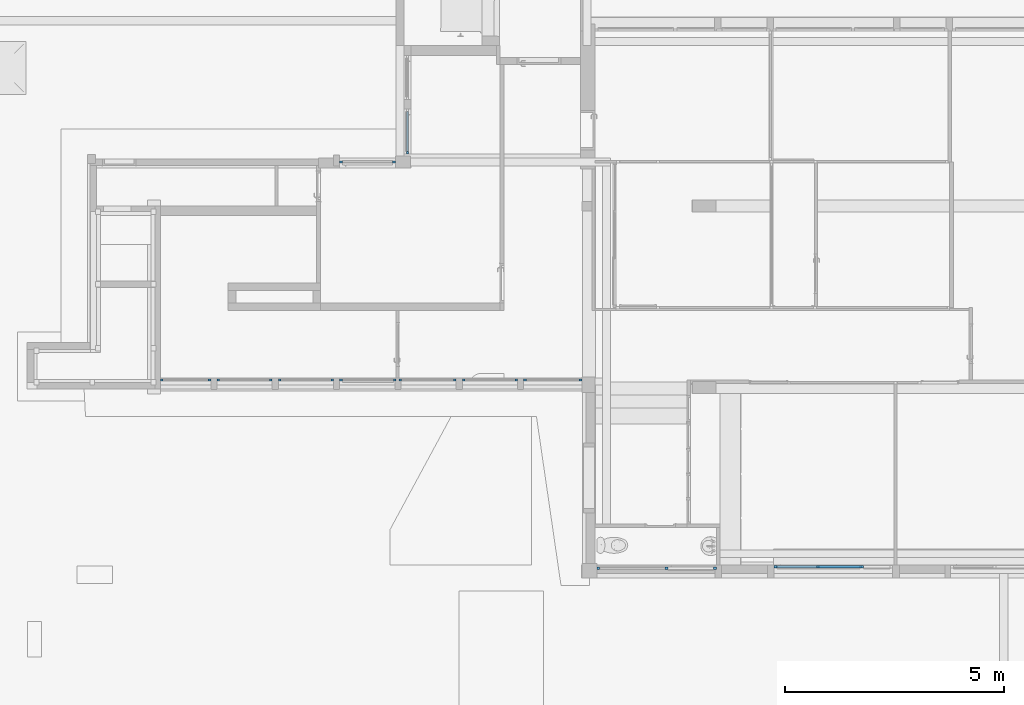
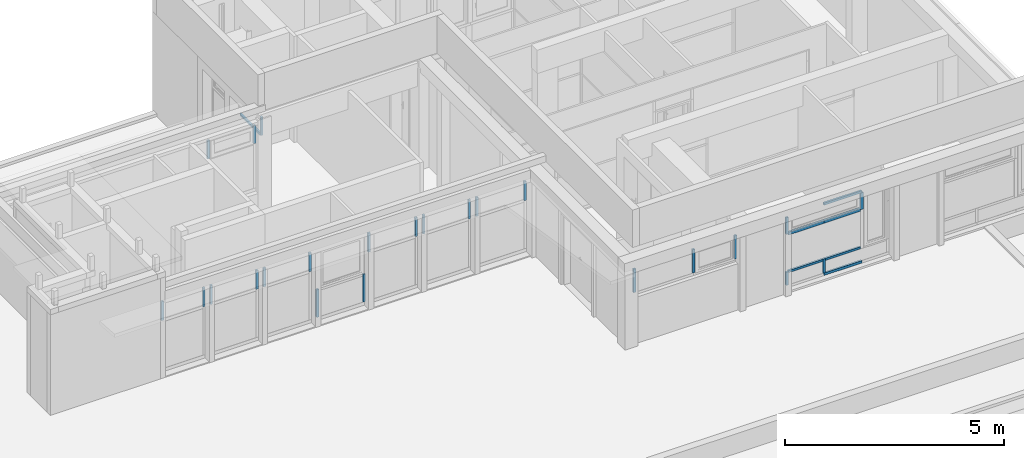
# One storey, part 14 of 49: 31 members, 11 elements without a shape of their own.
"""IFC4 building model written with IfcOpenShell, lengths in metres."""

from ifc_helpers import new_model, entity, si_unit, converted_unit, derived_unit, direction, frame, origin, place, context, subcontext, project, spatial, indexed_curve, outline, extrude, source, transform, mapped, material, type_object, type_shapes, element, aggregate, save


model = new_model("IFC4")

# Units and contexts
model_context = context("Model", 3, precision=1e-05, world=origin(), true_north=direction((6.12303176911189e-17, 1.0)))
body_context = subcontext(model_context, "Body", "Model", "MODEL_VIEW")
ifc_project = project(units=[si_unit("LENGTHUNIT", "METRE"), si_unit("AREAUNIT", "SQUARE_METRE"), si_unit("VOLUMEUNIT", "CUBIC_METRE"), converted_unit("PLANEANGLEUNIT", "DEGREE", entity("IfcRatioMeasure", 0.0174532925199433), si_unit("PLANEANGLEUNIT", "RADIAN"), dimensions=[0, 0, 0, 0, 0, 0, 0]), si_unit("MASSUNIT", "GRAM", prefix="KILO"), derived_unit("MASSDENSITYUNIT", [(si_unit("MASSUNIT", "GRAM", prefix="KILO"), 1), (si_unit("LENGTHUNIT", "METRE"), -3)]), derived_unit("MOMENTOFINERTIAUNIT", [(si_unit("LENGTHUNIT", "METRE"), 4)]), si_unit("TIMEUNIT", "SECOND"), si_unit("FREQUENCYUNIT", "HERTZ"), si_unit("THERMODYNAMICTEMPERATUREUNIT", "DEGREE_CELSIUS"), derived_unit("THERMALTRANSMITTANCEUNIT", [(si_unit("MASSUNIT", "GRAM", prefix="KILO"), 1), (si_unit("THERMODYNAMICTEMPERATUREUNIT", "KELVIN"), -1), (si_unit("TIMEUNIT", "SECOND"), -3)]), derived_unit("VOLUMETRICFLOWRATEUNIT", [(si_unit("LENGTHUNIT", "METRE"), 3), (si_unit("TIMEUNIT", "SECOND"), -1)]), si_unit("ELECTRICCURRENTUNIT", "AMPERE"), si_unit("ELECTRICVOLTAGEUNIT", "VOLT"), si_unit("POWERUNIT", "WATT"), si_unit("FORCEUNIT", "NEWTON", prefix="KILO"), si_unit("ILLUMINANCEUNIT", "LUX"), si_unit("LUMINOUSFLUXUNIT", "LUMEN"), si_unit("LUMINOUSINTENSITYUNIT", "CANDELA"), derived_unit("USERDEFINED", [(si_unit("MASSUNIT", "GRAM", prefix="KILO"), -1), (si_unit("LENGTHUNIT", "METRE"), -2), (si_unit("TIMEUNIT", "SECOND"), 3), (si_unit("LUMINOUSFLUXUNIT", "LUMEN"), 1)]), derived_unit("LINEARVELOCITYUNIT", [(si_unit("LENGTHUNIT", "METRE"), 1), (si_unit("TIMEUNIT", "SECOND"), -1)]), si_unit("PRESSUREUNIT", "PASCAL"), derived_unit("USERDEFINED", [(si_unit("LENGTHUNIT", "METRE"), -2), (si_unit("MASSUNIT", "GRAM", prefix="KILO"), 1), (si_unit("TIMEUNIT", "SECOND"), -2)]), derived_unit("LINEARFORCEUNIT", [(si_unit("MASSUNIT", "GRAM", prefix="KILO"), 1), (si_unit("LENGTHUNIT", "METRE"), 1), (si_unit("TIMEUNIT", "SECOND"), -2), (si_unit("LENGTHUNIT", "METRE"), -1)]), derived_unit("PLANARFORCEUNIT", [(si_unit("MASSUNIT", "GRAM", prefix="KILO"), 1), (si_unit("LENGTHUNIT", "METRE"), 1), (si_unit("TIMEUNIT", "SECOND"), -2), (si_unit("LENGTHUNIT", "METRE"), -2)])], contexts=[model_context])

# Site, building, storey
site_placement = place(None, origin())
site = spatial("IfcSite", under=ifc_project, at=site_placement, Name="Default", CompositionType="ELEMENT")
building_placement = place(site_placement, origin())
building = spatial("IfcBuilding", under=site, at=building_placement, Name="HOTEL CONSULAIRE BOULOGNE SUR MER", CompositionType="ELEMENT")
storey_placement = place(building_placement, frame((0.0, 0.0, 6.81974152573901)))
storey = spatial("IfcBuildingStorey", under=building, at=storey_placement, Name="Niveau 2", CompositionType="ELEMENT", Elevation=6.81974152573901)

# Curtain wall, member
curtain_wall_type = type_object("IfcCurtainWallType", Name="Mur-rideau:Simple panneau", PredefinedType="NOTDEFINED")
curtain_wall_1_placement = place(storey_placement, frame((0.0, 0.0, -6.81974152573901)))
curtain_wall_1 = element("IfcCurtainWall", 1, at=curtain_wall_1_placement, inside=storey, type_object=curtain_wall_type, Name="Mur-rideau:Simple panneau", ObjectType="Mur-rideau:Simple panneau", PredefinedType="NOTDEFINED")
ifc_material = material(Name="PVC - Blanc", Category="Plastique")
member_type_1 = type_object("IfcMemberType", Name="Meneau rectangulaire:50 x 30", PredefinedType="MULLION", material=ifc_material)
shared_shape_1 = source(origin(), body_context, "Body", "SweptSolid", [
    extrude(outline(indexed_curve([(-0.025, -0.03), (0.025, -0.03), (0.025, 0.03), (-0.025, 0.03), (-0.025, -0.03)], self_intersect=False)), frame((-0.03, -0.025, -0.526893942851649), z_axis=(0.0, 0.0, 1.0), x_axis=(0.0, -1.0, 0.0)), (0.0, 0.0, 1.0), 0.526893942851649),
])
type_shapes(member_type_1, [shared_shape_1])
member_1_placement = place(storey_placement, frame((1.75747131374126, -19.6319143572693, 2.62889394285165), z_axis=(0.0, 0.0, 1.0), x_axis=(-1.0, 0.0, 0.0)))
member_1 = element("IfcMember", 2, at=member_1_placement, type_object=member_type_1, material=ifc_material, Name="Meneau rectangulaire:50 x 30", ObjectType="Meneau rectangulaire:50 x 30", PredefinedType="MULLION", context=body_context, shape_type="MappedRepresentation", body=[
    mapped(shared_shape_1, transform((0.0, 0.0, 0.0), scale=1.0)),
])

curtain_wall_2_placement = place(storey_placement, frame((0.0, 0.0, -6.81974152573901)))
curtain_wall_2 = element("IfcCurtainWall", 3, at=curtain_wall_2_placement, inside=storey, type_object=curtain_wall_type, Name="Mur-rideau:Simple panneau", ObjectType="Mur-rideau:Simple panneau", PredefinedType="NOTDEFINED")
member_2_placement = place(storey_placement, frame((3.04421154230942, -19.6319143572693, 2.62889394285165), z_axis=(0.0, 0.0, 1.0), x_axis=(-1.0, 0.0, 0.0)))
member_2 = element("IfcMember", 4, at=member_2_placement, type_object=member_type_1, material=ifc_material, Name="Meneau rectangulaire:50 x 30", ObjectType="Meneau rectangulaire:50 x 30", PredefinedType="MULLION", context=body_context, shape_type="MappedRepresentation", body=[
    mapped(shared_shape_1, transform((0.0, 0.0, 0.0), scale=1.0)),
])

curtain_wall_3_placement = place(storey_placement, frame((0.0, 0.0, -6.81974152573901)))
curtain_wall_3 = element("IfcCurtainWall", 5, at=curtain_wall_3_placement, inside=storey, type_object=curtain_wall_type, Name="Mur-rideau:Simple panneau", ObjectType="Mur-rideau:Simple panneau", PredefinedType="NOTDEFINED")
member_3_placement = place(storey_placement, frame((7.2011767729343, -19.6319143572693, 2.62889394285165), z_axis=(0.0, 0.0, 1.0), x_axis=(-1.0, 0.0, 0.0)))
member_3 = element("IfcMember", 6, at=member_3_placement, type_object=member_type_1, material=ifc_material, Name="Meneau rectangulaire:50 x 30", ObjectType="Meneau rectangulaire:50 x 30", PredefinedType="MULLION", context=body_context, shape_type="MappedRepresentation", body=[
    mapped(shared_shape_1, transform((0.0, 0.0, 0.0), scale=1.0)),
])

curtain_wall_4_placement = place(storey_placement, frame((0.0, 0.0, -6.81974152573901)))
curtain_wall_4 = element("IfcCurtainWall", 7, at=curtain_wall_4_placement, inside=storey, type_object=curtain_wall_type, Name="Mur-rideau:Simple panneau", ObjectType="Mur-rideau:Simple panneau", PredefinedType="NOTDEFINED")
member_4_placement = place(storey_placement, frame((8.64421154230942, -19.6319143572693, 2.62889394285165), z_axis=(0.0, 0.0, 1.0), x_axis=(-1.0, 0.0, 0.0)))
member_4 = element("IfcMember", 8, at=member_4_placement, type_object=member_type_1, material=ifc_material, Name="Meneau rectangulaire:50 x 30", ObjectType="Meneau rectangulaire:50 x 30", PredefinedType="MULLION", context=body_context, shape_type="MappedRepresentation", body=[
    mapped(shared_shape_1, transform((0.0, 0.0, 0.0), scale=1.0)),
])

curtain_wall_5_placement = place(storey_placement, frame((0.0, 0.0, -6.81974152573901)))
curtain_wall_5 = element("IfcCurtainWall", 9, at=curtain_wall_5_placement, inside=storey, type_object=curtain_wall_type, Name="Mur-rideau:Simple panneau", ObjectType="Mur-rideau:Simple panneau", PredefinedType="NOTDEFINED")
member_5_placement = place(storey_placement, frame((10.0442115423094, -19.6319143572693, 2.62889394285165), z_axis=(0.0, 0.0, 1.0), x_axis=(-1.0, 0.0, 0.0)))
member_5 = element("IfcMember", 10, at=member_5_placement, type_object=member_type_1, material=ifc_material, Name="Meneau rectangulaire:50 x 30", ObjectType="Meneau rectangulaire:50 x 30", PredefinedType="MULLION", context=body_context, shape_type="MappedRepresentation", body=[
    mapped(shared_shape_1, transform((0.0, 0.0, 0.0), scale=1.0)),
])

# Member
member_type_2 = type_object("IfcMemberType", Name="Meneau rectangulaire:50 x 30", PredefinedType="MULLION", material=ifc_material)
shared_shape_2 = source(origin(), body_context, "Body", "SweptSolid", [
    extrude(outline(indexed_curve([(-0.025, -0.03), (0.025, -0.03), (0.025, 0.03), (-0.025, 0.03), (-0.025, -0.03)], self_intersect=False)), frame((-0.03, -0.025, -0.52689394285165), z_axis=(0.0, 0.0, 1.0), x_axis=(0.0, -1.0, 0.0)), (0.0, 0.0, 1.0), 0.52689394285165),
])
type_shapes(member_type_2, [shared_shape_2])
member_6_placement = place(storey_placement, frame((2.90421154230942, -19.6319143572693, 2.102), z_axis=(0.0, 0.0, -1.0), x_axis=(1.0, 0.0, 0.0)))
member_6 = element("IfcMember", 11, at=member_6_placement, type_object=member_type_2, material=ifc_material, Name="Meneau rectangulaire:50 x 30", ObjectType="Meneau rectangulaire:50 x 30", PredefinedType="MULLION", context=body_context, shape_type="MappedRepresentation", body=[
    mapped(shared_shape_2, transform((0.0, 0.0, 0.0), scale=1.0)),
])

aggregate(curtain_wall_1, [member_1, member_6])

member_7_placement = place(storey_placement, frame((4.30421154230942, -19.6319143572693, 2.102), z_axis=(0.0, 0.0, -1.0), x_axis=(1.0, 0.0, 0.0)))
member_7 = element("IfcMember", 12, at=member_7_placement, type_object=member_type_2, material=ifc_material, Name="Meneau rectangulaire:50 x 30", ObjectType="Meneau rectangulaire:50 x 30", PredefinedType="MULLION", context=body_context, shape_type="MappedRepresentation", body=[
    mapped(shared_shape_2, transform((0.0, 0.0, 0.0), scale=1.0)),
])

aggregate(curtain_wall_2, [member_2, member_7])

member_8_placement = place(storey_placement, frame((8.50421154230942, -19.6319143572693, 2.102), z_axis=(0.0, 0.0, -1.0), x_axis=(1.0, 0.0, 0.0)))
member_8 = element("IfcMember", 13, at=member_8_placement, type_object=member_type_2, material=ifc_material, Name="Meneau rectangulaire:50 x 30", ObjectType="Meneau rectangulaire:50 x 30", PredefinedType="MULLION", context=body_context, shape_type="MappedRepresentation", body=[
    mapped(shared_shape_2, transform((0.0, 0.0, 0.0), scale=1.0)),
])

aggregate(curtain_wall_3, [member_3, member_8])

member_9_placement = place(storey_placement, frame((9.90421154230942, -19.6319143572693, 2.102), z_axis=(0.0, 0.0, -1.0), x_axis=(1.0, 0.0, 0.0)))
member_9 = element("IfcMember", 14, at=member_9_placement, type_object=member_type_2, material=ifc_material, Name="Meneau rectangulaire:50 x 30", ObjectType="Meneau rectangulaire:50 x 30", PredefinedType="MULLION", context=body_context, shape_type="MappedRepresentation", body=[
    mapped(shared_shape_2, transform((0.0, 0.0, 0.0), scale=1.0)),
])

aggregate(curtain_wall_4, [member_4, member_9])

member_10_placement = place(storey_placement, frame((11.3719435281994, -19.6319143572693, 2.102), z_axis=(0.0, 0.0, -1.0), x_axis=(1.0, 0.0, 0.0)))
member_10 = element("IfcMember", 15, at=member_10_placement, type_object=member_type_2, material=ifc_material, Name="Meneau rectangulaire:50 x 30", ObjectType="Meneau rectangulaire:50 x 30", PredefinedType="MULLION", context=body_context, shape_type="MappedRepresentation", body=[
    mapped(shared_shape_2, transform((0.0, 0.0, 0.0), scale=1.0)),
])

aggregate(curtain_wall_5, [member_5, member_10])

# Curtain wall, members
curtain_wall_6_placement = place(storey_placement, frame((0.0, 0.0, -6.81974152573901)))
curtain_wall_6 = element("IfcCurtainWall", 16, at=curtain_wall_6_placement, inside=storey, type_object=curtain_wall_type, Name="Mur-rideau:Simple panneau", ObjectType="Mur-rideau:Simple panneau", PredefinedType="NOTDEFINED")
member_type_3 = type_object("IfcMemberType", Name="Meneau rectangulaire:50 x 30", PredefinedType="MULLION", material=ifc_material)
shared_shape_3 = source(origin(), body_context, "Body", "SweptSolid", [
    extrude(outline(indexed_curve([(-0.025, -0.03), (0.025, -0.03), (0.025, 0.03), (-0.025, 0.03), (-0.025, -0.03)], self_intersect=False)), frame((-0.03, -0.025, -0.519999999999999), z_axis=(0.0, 0.0, 1.0), x_axis=(0.0, -1.0, 0.0)), (0.0, 0.0, 1.0), 0.519999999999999),
])
type_shapes(member_type_3, [shared_shape_3])
member_11_placement = place(storey_placement, frame((4.44421154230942, -19.6319143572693, 2.622), z_axis=(0.0, 0.0, 1.0), x_axis=(-1.0, 0.0, 0.0)))
member_11 = element("IfcMember", 17, at=member_11_placement, type_object=member_type_3, material=ifc_material, Name="Meneau rectangulaire:50 x 30", ObjectType="Meneau rectangulaire:50 x 30", PredefinedType="MULLION", context=body_context, shape_type="MappedRepresentation", body=[
    mapped(shared_shape_3, transform((0.0, 0.0, 0.0), scale=1.0)),
])
member_type_4 = type_object("IfcMemberType", Name="Meneau rectangulaire:50 x 30", PredefinedType="MULLION", material=ifc_material)
shared_shape_4 = source(origin(), body_context, "Body", "SweptSolid", [
    extrude(outline(indexed_curve([(-0.025, -0.03), (0.025, -0.03), (0.025, 0.03), (-0.025, 0.03), (-0.025, -0.03)], self_intersect=False)), frame((-0.03, -0.025, -0.519999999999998), z_axis=(0.0, 0.0, 1.0), x_axis=(0.0, -1.0, 0.0)), (0.0, 0.0, 1.0), 0.519999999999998),
])
type_shapes(member_type_4, [shared_shape_4])
member_12_placement = place(storey_placement, frame((5.70421154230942, -19.6319143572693, 2.102), z_axis=(0.0, 0.0, -1.0), x_axis=(1.0, 0.0, 0.0)))
member_12 = element("IfcMember", 18, at=member_12_placement, type_object=member_type_4, material=ifc_material, Name="Meneau rectangulaire:50 x 30", ObjectType="Meneau rectangulaire:50 x 30", PredefinedType="MULLION", context=body_context, shape_type="MappedRepresentation", body=[
    mapped(shared_shape_4, transform((0.0, 0.0, 0.0), scale=1.0)),
])
aggregate(curtain_wall_6, [member_11, member_12])

curtain_wall_7_placement = place(storey_placement, frame((0.0, 0.0, -6.81974152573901)))
curtain_wall_7 = element("IfcCurtainWall", 19, at=curtain_wall_7_placement, inside=storey, type_object=curtain_wall_type, Name="Mur-rideau:Simple panneau", ObjectType="Mur-rideau:Simple panneau", PredefinedType="NOTDEFINED")
member_type_5 = type_object("IfcMemberType", Name="Meneau rectangulaire:50 x 30", PredefinedType="MULLION", material=ifc_material)
shared_shape_5 = source(origin(), body_context, "Body", "SweptSolid", [
    extrude(outline(indexed_curve([(-0.025, -0.03), (0.025, -0.03), (0.025, 0.03), (-0.025, 0.03), (-0.025, -0.03)], self_intersect=False)), frame((-0.03, -0.025, -0.771), z_axis=(0.0, 0.0, 1.0), x_axis=(0.0, -1.0, 0.0)), (0.0, 0.0, 1.0), 0.771),
])
type_shapes(member_type_5, [shared_shape_5])
member_13_placement = place(storey_placement, frame((5.84421154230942, -19.6319143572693, 1.531), z_axis=(0.0, 0.0, 1.0), x_axis=(-1.0, 0.0, 0.0)))
member_13 = element("IfcMember", 20, at=member_13_placement, type_object=member_type_5, material=ifc_material, Name="Meneau rectangulaire:50 x 30", ObjectType="Meneau rectangulaire:50 x 30", PredefinedType="MULLION", context=body_context, shape_type="MappedRepresentation", body=[
    mapped(shared_shape_5, transform((0.0, 0.0, 0.0), scale=1.0)),
])
member_type_6 = type_object("IfcMemberType", Name="Meneau rectangulaire:50 x 30", PredefinedType="MULLION", material=ifc_material)
shared_shape_6 = source(origin(), body_context, "Body", "SweptSolid", [
    extrude(outline(indexed_curve([(-0.025, -0.03), (0.025, -0.03), (0.025, 0.03), (-0.025, 0.03), (-0.025, -0.03)], self_intersect=False)), frame((-0.03, -0.025, -0.771), z_axis=(0.0, 0.0, 1.0), x_axis=(0.0, -1.0, 0.0)), (0.0, 0.0, 1.0), 0.771),
])
type_shapes(member_type_6, [shared_shape_6])
member_14_placement = place(storey_placement, frame((7.1311767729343, -19.6319143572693, 0.76), z_axis=(0.0, 0.0, -1.0), x_axis=(1.0, 0.0, 0.0)))
member_14 = element("IfcMember", 21, at=member_14_placement, type_object=member_type_6, material=ifc_material, Name="Meneau rectangulaire:50 x 30", ObjectType="Meneau rectangulaire:50 x 30", PredefinedType="MULLION", context=body_context, shape_type="MappedRepresentation", body=[
    mapped(shared_shape_6, transform((0.0, 0.0, 0.0), scale=1.0)),
])
aggregate(curtain_wall_7, [member_13, member_14])

curtain_wall_8_placement = place(storey_placement, frame((0.0, 0.0, -6.81974152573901)))
curtain_wall_8 = element("IfcCurtainWall", 22, at=curtain_wall_8_placement, inside=storey, type_object=curtain_wall_type, Name="Mur-rideau:Simple panneau", ObjectType="Mur-rideau:Simple panneau", PredefinedType="NOTDEFINED")
member_type_7 = type_object("IfcMemberType", Name="Meneau rectangulaire:50 x 30", PredefinedType="MULLION", material=ifc_material)
shared_shape_7 = source(origin(), body_context, "Body", "SweptSolid", [
    extrude(outline(indexed_curve([(-0.025, -0.03), (0.025, -0.03), (0.025, 0.03), (-0.025, 0.03), (-0.025, -0.03)], self_intersect=False)), frame((-0.03, -0.025, -0.366), z_axis=(0.0, 0.0, 1.0), x_axis=(0.0, -1.0, 0.0)), (0.0, 0.0, 1.0), 0.366),
])
type_shapes(member_type_7, [shared_shape_7])
member_15_placement = place(storey_placement, frame((15.7620413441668, -23.8933633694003, 1.12999999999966), z_axis=(0.0, 0.0, 1.0), x_axis=(-1.0, 0.0, 0.0)))
member_15 = element("IfcMember", 23, at=member_15_placement, type_object=member_type_7, material=ifc_material, Name="Meneau rectangulaire:50 x 30", ObjectType="Meneau rectangulaire:50 x 30", PredefinedType="MULLION", context=body_context, shape_type="MappedRepresentation", body=[
    mapped(shared_shape_7, transform((0.0, 0.0, 0.0), scale=1.0)),
])
member_type_8 = type_object("IfcMemberType", Name="Meneau rectangulaire:50 x 30", PredefinedType="MULLION", material=ifc_material)
shared_shape_8 = source(origin(), body_context, "Body", "SweptSolid", [
    extrude(outline(indexed_curve([(-0.025, -0.03), (0.025, -0.03), (0.025, 0.03), (-0.025, 0.03), (-0.025, -0.03)], self_intersect=False)), frame((-0.03, -0.025, -0.462000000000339), z_axis=(0.0, 0.0, 1.0), x_axis=(0.0, -1.0, 0.0)), (0.0, 0.0, 1.0), 0.462000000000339),
])
type_shapes(member_type_8, [shared_shape_8])
member_16_placement = place(storey_placement, frame((15.7620413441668, -23.8933633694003, 2.652), z_axis=(0.0, 0.0, 1.0), x_axis=(-1.0, 0.0, 0.0)))
member_16 = element("IfcMember", 24, at=member_16_placement, type_object=member_type_8, material=ifc_material, Name="Meneau rectangulaire:50 x 30", ObjectType="Meneau rectangulaire:50 x 30", PredefinedType="MULLION", context=body_context, shape_type="MappedRepresentation", body=[
    mapped(shared_shape_8, transform((0.0, 0.0, 0.0), scale=1.0)),
])
member_type_9 = type_object("IfcMemberType", Name="Meneau rectangulaire:50 x 40", PredefinedType="MULLION", material=ifc_material)
shared_shape_9 = source(origin(), body_context, "Body", "SweptSolid", [
    extrude(outline(indexed_curve([(-0.025, -0.04), (0.025, -0.04), (0.025, 0.04), (-0.025, 0.04), (-0.025, -0.04)], self_intersect=False)), frame((0.0, -0.025, -0.939999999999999), z_axis=(0.0, 0.0, 1.0), x_axis=(0.0, -1.0, 0.0)), (0.0, 0.0, 1.0), 0.939999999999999),
])
type_shapes(member_type_9, [shared_shape_9])
member_17_placement = place(storey_placement, frame((16.7620413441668, -23.8933633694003, 2.18999999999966), z_axis=(1.0, 0.0, 0.0), x_axis=(0.0, 0.0, 1.0)))
member_17 = element("IfcMember", 25, at=member_17_placement, type_object=member_type_9, material=ifc_material, Name="Meneau rectangulaire:50 x 40", ObjectType="Meneau rectangulaire:50 x 40", PredefinedType="MULLION", context=body_context, shape_type="MappedRepresentation", body=[
    mapped(shared_shape_9, transform((0.0, 0.0, 0.0), scale=1.0)),
])
member_type_10 = type_object("IfcMemberType", Name="Meneau rectangulaire:50 x 40", PredefinedType="MULLION", material=ifc_material)
shared_shape_10 = source(origin(), body_context, "Body", "SweptSolid", [
    extrude(outline(indexed_curve([(-0.025, -0.04), (0.025, -0.04), (0.025, 0.04), (-0.025, 0.04), (-0.025, -0.04)], self_intersect=False)), frame((0.0, -0.025, -0.462000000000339), z_axis=(0.0, 0.0, 1.0), x_axis=(0.0, -1.0, 0.0)), (0.0, 0.0, 1.0), 0.462000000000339),
])
type_shapes(member_type_10, [shared_shape_10])
member_18_placement = place(storey_placement, frame((17.7580413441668, -23.8933633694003, 2.18999999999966), z_axis=(0.0, 0.0, -1.0), x_axis=(1.0, 0.0, 0.0)))
member_18 = element("IfcMember", 26, at=member_18_placement, type_object=member_type_10, material=ifc_material, Name="Meneau rectangulaire:50 x 40", ObjectType="Meneau rectangulaire:50 x 40", PredefinedType="MULLION", context=body_context, shape_type="MappedRepresentation", body=[
    mapped(shared_shape_10, transform((0.0, 0.0, 0.0), scale=1.0)),
])
member_type_11 = type_object("IfcMemberType", Name="Meneau rectangulaire:50 x 30", PredefinedType="MULLION", material=ifc_material)
shared_shape_11 = source(origin(), body_context, "Body", "SweptSolid", [
    extrude(outline(indexed_curve([(-0.025, -0.03), (0.025, -0.03), (0.025, 0.03), (-0.025, 0.03), (-0.025, -0.03)], self_intersect=False)), frame((0.0, -0.025, -0.909999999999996), z_axis=(0.0, 0.0, 1.0), x_axis=(0.0, -1.0, 0.0)), (0.0, 0.0, 1.0), 0.909999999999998),
])
type_shapes(member_type_11, [shared_shape_11])
member_19_placement = place(storey_placement, frame((16.7320413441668, -23.8933633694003, 1.12999999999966), z_axis=(1.0, 0.0, 0.0), x_axis=(0.0, 0.0, 1.0)))
member_19 = element("IfcMember", 27, at=member_19_placement, type_object=member_type_11, material=ifc_material, Name="Meneau rectangulaire:50 x 30", ObjectType="Meneau rectangulaire:50 x 30", PredefinedType="MULLION", context=body_context, shape_type="MappedRepresentation", body=[
    mapped(shared_shape_11, transform((0.0, 0.0, 0.0), scale=1.0)),
])
member_type_12 = type_object("IfcMemberType", Name="Meneau rectangulaire:50 x 30", PredefinedType="MULLION", material=ifc_material)
shared_shape_12 = source(origin(), body_context, "Body", "SweptSolid", [
    extrude(outline(indexed_curve([(-0.025, -0.03), (0.025, -0.03), (0.025, 0.03), (-0.025, 0.03), (-0.025, -0.03)], self_intersect=False)), frame((0.0, -0.025, -0.396), z_axis=(0.0, 0.0, 1.0), x_axis=(0.0, -1.0, 0.0)), (0.0, 0.0, 1.0), 0.396),
])
type_shapes(member_type_12, [shared_shape_12])
member_20_placement = place(storey_placement, frame((16.7620413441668, -23.8933633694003, 0.763999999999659), z_axis=(0.0, 0.0, -1.0), x_axis=(1.0, 0.0, 0.0)))
member_20 = element("IfcMember", 28, at=member_20_placement, type_object=member_type_12, material=ifc_material, Name="Meneau rectangulaire:50 x 30", ObjectType="Meneau rectangulaire:50 x 30", PredefinedType="MULLION", context=body_context, shape_type="MappedRepresentation", body=[
    mapped(shared_shape_12, transform((0.0, 0.0, 0.0), scale=1.0)),
])
member_type_13 = type_object("IfcMemberType", Name="Meneau rectangulaire:50 x 35", PredefinedType="MULLION", material=ifc_material)
shared_shape_13 = source(origin(), body_context, "Body", "SweptSolid", [
    extrude(outline(indexed_curve([(-0.025, -0.035), (0.025, -0.035), (0.025, 0.035), (-0.025, 0.035), (-0.025, -0.035)], self_intersect=False)), frame((-0.035, -0.025, -0.996000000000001), z_axis=(0.0, 0.0, 1.0), x_axis=(0.0, -1.0, 0.0)), (0.0, 0.0, 1.0), 0.996000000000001),
])
type_shapes(member_type_13, [shared_shape_13])
member_21_placement = place(storey_placement, frame((16.7620413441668, -23.8933633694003, 0.693999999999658), z_axis=(-1.0, 0.0, 0.0), x_axis=(0.0, 0.0, -1.0)))
member_21 = element("IfcMember", 29, at=member_21_placement, type_object=member_type_13, material=ifc_material, Name="Meneau rectangulaire:50 x 35", ObjectType="Meneau rectangulaire:50 x 35", PredefinedType="MULLION", context=body_context, shape_type="MappedRepresentation", body=[
    mapped(shared_shape_13, transform((0.0, 0.0, 0.0), scale=1.0)),
])
member_type_14 = type_object("IfcMemberType", Name="Meneau rectangulaire:50 x 30", PredefinedType="MULLION", material=ifc_material)
shared_shape_14 = source(origin(), body_context, "Body", "SweptSolid", [
    extrude(outline(indexed_curve([(-0.025, -0.03), (0.025, -0.03), (0.025, 0.03), (-0.025, 0.03), (-0.025, -0.03)], self_intersect=False)), frame((-0.03, -0.025, -0.996), z_axis=(0.0, 0.0, 1.0), x_axis=(0.0, -1.0, 0.0)), (0.0, 0.0, 1.0), 0.996),
])
type_shapes(member_type_14, [shared_shape_14])
member_22_placement = place(storey_placement, frame((17.7580413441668, -23.8933633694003, 2.712), z_axis=(1.0, 0.0, 0.0), x_axis=(0.0, 0.0, 1.0)))
member_22 = element("IfcMember", 30, at=member_22_placement, type_object=member_type_14, material=ifc_material, Name="Meneau rectangulaire:50 x 30", ObjectType="Meneau rectangulaire:50 x 30", PredefinedType="MULLION", context=body_context, shape_type="MappedRepresentation", body=[
    mapped(shared_shape_14, transform((0.0, 0.0, 0.0), scale=1.0)),
])
member_type_15 = type_object("IfcMemberType", Name="Meneau rectangulaire:50 x 40", PredefinedType="MULLION", material=ifc_material)
shared_shape_15 = source(origin(), body_context, "Body", "SweptSolid", [
    extrude(outline(indexed_curve([(-0.025, -0.04), (0.025, -0.04), (0.025, 0.04), (-0.025, 0.04), (-0.025, -0.04)], self_intersect=False)), frame((0.0, -0.025, -0.955999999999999), z_axis=(0.0, 0.0, 1.0), x_axis=(0.0, -1.0, 0.0)), (0.0, 0.0, 1.0), 0.955999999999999),
])
type_shapes(member_type_15, [shared_shape_15])
member_23_placement = place(storey_placement, frame((17.7180413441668, -23.8933633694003, 2.18999999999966), z_axis=(1.0, 0.0, 0.0), x_axis=(0.0, 0.0, 1.0)))
member_23 = element("IfcMember", 31, at=member_23_placement, type_object=member_type_15, material=ifc_material, Name="Meneau rectangulaire:50 x 40", ObjectType="Meneau rectangulaire:50 x 40", PredefinedType="MULLION", context=body_context, shape_type="MappedRepresentation", body=[
    mapped(shared_shape_15, transform((0.0, 0.0, 0.0), scale=1.0)),
])
member_type_16 = type_object("IfcMemberType", Name="Meneau rectangulaire:50 x 30", PredefinedType="MULLION", material=ifc_material)
shared_shape_16 = source(origin(), body_context, "Body", "SweptSolid", [
    extrude(outline(indexed_curve([(-0.025, -0.03), (0.025, -0.03), (0.025, 0.03), (-0.025, 0.03), (-0.025, -0.03)], self_intersect=False)), frame((0.0, -0.025, -0.926000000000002), z_axis=(0.0, 0.0, 1.0), x_axis=(0.0, -1.0, 0.0)), (0.0, 0.0, 1.0), 0.926000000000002),
])
type_shapes(member_type_16, [shared_shape_16])
member_24_placement = place(storey_placement, frame((17.7180413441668, -23.8933633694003, 1.12999999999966), z_axis=(1.0, 0.0, 0.0), x_axis=(0.0, 0.0, 1.0)))
member_24 = element("IfcMember", 32, at=member_24_placement, type_object=member_type_16, material=ifc_material, Name="Meneau rectangulaire:50 x 30", ObjectType="Meneau rectangulaire:50 x 30", PredefinedType="MULLION", context=body_context, shape_type="MappedRepresentation", body=[
    mapped(shared_shape_16, transform((0.0, 0.0, 0.0), scale=1.0)),
])
aggregate(curtain_wall_8, [member_21, member_15, member_16, member_22, member_23, member_17, member_18, member_24, member_19, member_20])

curtain_wall_9_placement = place(storey_placement, frame((0.0, 0.0, -6.81974152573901)))
curtain_wall_9 = element("IfcCurtainWall", 33, at=curtain_wall_9_placement, inside=storey, type_object=curtain_wall_type, Name="Mur-rideau:Simple panneau", ObjectType="Mur-rideau:Simple panneau", PredefinedType="NOTDEFINED")
member_type_17 = type_object("IfcMemberType", Name="Meneau rectangulaire:50 x 30", PredefinedType="MULLION", material=ifc_material)
shared_shape_17 = source(origin(), body_context, "Body", "SweptSolid", [
    extrude(outline(indexed_curve([(-0.025, -0.03), (0.025, -0.03), (0.025, 0.03), (-0.025, 0.03), (-0.025, -0.03)], self_intersect=False)), frame((-0.03, -0.025, -0.65262889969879), z_axis=(0.0, 0.0, 1.0), x_axis=(0.0, -1.0, 0.0)), (0.0, 0.0, 1.0), 0.65262889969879),
])
type_shapes(member_type_17, [shared_shape_17])
member_25_placement = place(storey_placement, frame((11.7169086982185, -23.9271007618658, 2.652), z_axis=(0.0, 0.0, 1.0), x_axis=(-1.0, 0.0, 0.0)))
member_25 = element("IfcMember", 34, at=member_25_placement, type_object=member_type_17, material=ifc_material, Name="Meneau rectangulaire:50 x 30", ObjectType="Meneau rectangulaire:50 x 30", PredefinedType="MULLION", context=body_context, shape_type="MappedRepresentation", body=[
    mapped(shared_shape_17, transform((0.0, 0.0, 0.0), scale=1.0)),
])
member_type_18 = type_object("IfcMemberType", Name="Meneau rectangulaire:50 x 30", PredefinedType="MULLION", material=ifc_material)
shared_shape_18 = source(origin(), body_context, "Body", "SweptSolid", [
    extrude(outline(indexed_curve([(-0.025, -0.03), (0.025, -0.03), (0.025, 0.03), (-0.025, 0.03), (-0.025, -0.03)], self_intersect=False)), frame((-0.03, -0.025, -0.652628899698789), z_axis=(0.0, 0.0, 1.0), x_axis=(0.0, -1.0, 0.0)), (0.0, 0.0, 1.0), 0.652628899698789),
])
type_shapes(member_type_18, [shared_shape_18])
member_26_placement = place(storey_placement, frame((14.4419086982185, -23.9271007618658, 1.99937110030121), z_axis=(0.0, 0.0, -1.0), x_axis=(1.0, 0.0, 0.0)))
member_26 = element("IfcMember", 35, at=member_26_placement, type_object=member_type_18, material=ifc_material, Name="Meneau rectangulaire:50 x 30", ObjectType="Meneau rectangulaire:50 x 30", PredefinedType="MULLION", context=body_context, shape_type="MappedRepresentation", body=[
    mapped(shared_shape_18, transform((0.0, 0.0, 0.0), scale=1.0)),
])
member_type_19 = type_object("IfcMemberType", Name="Meneau rectangulaire:50 x 30", PredefinedType="MULLION", material=ifc_material)
shared_shape_19 = source(origin(), body_context, "Body", "SweptSolid", [
    extrude(outline(indexed_curve([(-0.025, -0.03), (0.025, -0.03), (0.025, 0.03), (-0.025, 0.03), (-0.025, -0.03)], self_intersect=False)), frame((0.0, -0.025, -0.652628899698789), z_axis=(0.0, 0.0, 1.0), x_axis=(0.0, -1.0, 0.0)), (0.0, 0.0, 1.0), 0.652628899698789),
])
type_shapes(member_type_19, [shared_shape_19])
member_27_placement = place(storey_placement, frame((13.3049086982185, -23.9271007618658, 1.99937110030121), z_axis=(0.0, 0.0, -1.0), x_axis=(1.0, 0.0, 0.0)))
member_27 = element("IfcMember", 36, at=member_27_placement, type_object=member_type_19, material=ifc_material, Name="Meneau rectangulaire:50 x 30", ObjectType="Meneau rectangulaire:50 x 30", PredefinedType="MULLION", context=body_context, shape_type="MappedRepresentation", body=[
    mapped(shared_shape_19, transform((0.0, 0.0, 0.0), scale=1.0)),
])
aggregate(curtain_wall_9, [member_25, member_26, member_27])

# Curtain wall, member
curtain_wall_10_placement = place(storey_placement, frame((0.0, 0.0, -6.81974152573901)))
curtain_wall_10 = element("IfcCurtainWall", 37, at=curtain_wall_10_placement, inside=storey, type_object=curtain_wall_type, Name="Mur-rideau:Simple panneau", ObjectType="Mur-rideau:Simple panneau", PredefinedType="NOTDEFINED")
member_type_20 = type_object("IfcMemberType", Name="Meneau rectangulaire:50 x 30", PredefinedType="MULLION", material=ifc_material)
shared_shape_20 = source(origin(), body_context, "Body", "SweptSolid", [
    extrude(outline(indexed_curve([(-0.025, -0.03), (0.025, -0.03), (0.025, 0.03), (-0.025, 0.03), (-0.025, -0.03)], self_intersect=False)), frame((-0.03, -0.025, -0.506), z_axis=(0.0, 0.0, 1.0), x_axis=(0.0, -1.0, 0.0)), (0.0, 0.0, 1.0), 0.506),
])
type_shapes(member_type_20, [shared_shape_20])
member_28_placement = place(storey_placement, frame((5.84421154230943, -14.6529109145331, 2.66473410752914), z_axis=(0.0, 0.0, 1.0), x_axis=(-1.0, 0.0, 0.0)))
member_28 = element("IfcMember", 38, at=member_28_placement, type_object=member_type_20, material=ifc_material, Name="Meneau rectangulaire:50 x 30", ObjectType="Meneau rectangulaire:50 x 30", PredefinedType="MULLION", context=body_context, shape_type="MappedRepresentation", body=[
    mapped(shared_shape_20, transform((0.0, 0.0, 0.0), scale=1.0)),
])

curtain_wall_11_placement = place(storey_placement, frame((0.0, 0.0, -6.81974152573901)))
curtain_wall_11 = element("IfcCurtainWall", 39, at=curtain_wall_11_placement, inside=storey, type_object=curtain_wall_type, Name="Mur-rideau:Simple panneau", ObjectType="Mur-rideau:Simple panneau", PredefinedType="NOTDEFINED")
member_type_21 = type_object("IfcMemberType", Name="Meneau rectangulaire:50 x 30", PredefinedType="MULLION", material=ifc_material)
shared_shape_21 = source(origin(), body_context, "Body", "SweptSolid", [
    extrude(outline(indexed_curve([(-0.025, -0.03), (0.025, -0.03), (0.025, 0.03), (-0.025, 0.03), (-0.025, -0.03)], self_intersect=False)), frame((-0.03, -0.025, -0.506), z_axis=(0.0, 0.0, 1.0), x_axis=(0.0, -1.0, 0.0)), (0.0, 0.0, 1.0), 0.506),
])
type_shapes(member_type_21, [shared_shape_21])
member_29_placement = place(storey_placement, frame((7.3689802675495, -14.4530869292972, 2.15873410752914), z_axis=(0.0, 0.0, -1.0), x_axis=(0.0, -1.0, 0.0)))
member_29 = element("IfcMember", 40, at=member_29_placement, type_object=member_type_21, material=ifc_material, Name="Meneau rectangulaire:50 x 30", ObjectType="Meneau rectangulaire:50 x 30", PredefinedType="MULLION", context=body_context, shape_type="MappedRepresentation", body=[
    mapped(shared_shape_21, transform((0.0, 0.0, 0.0), scale=1.0)),
])

# Member
member_30_placement = place(storey_placement, frame((7.11346777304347, -14.6529109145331, 2.15873410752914), z_axis=(0.0, 0.0, -1.0), x_axis=(1.0, 0.0, 0.0)))
member_30 = element("IfcMember", 41, at=member_30_placement, type_object=member_type_21, material=ifc_material, Name="Meneau rectangulaire:50 x 30", ObjectType="Meneau rectangulaire:50 x 30", PredefinedType="MULLION", context=body_context, shape_type="MappedRepresentation", body=[
    mapped(shared_shape_21, transform((0.0, 0.0, 0.0), scale=1.0)),
])

aggregate(curtain_wall_10, [member_28, member_30])

member_type_22 = type_object("IfcMemberType", Name="Meneau rectangulaire:50 x 30", PredefinedType="MULLION", material=ifc_material)
shared_shape_22 = source(origin(), body_context, "Body", "SweptSolid", [
    extrude(outline(indexed_curve([(-0.025, -0.03), (0.025, -0.03), (0.025, 0.03), (-0.025, 0.03), (-0.025, -0.03)], self_intersect=False)), frame((0.0, -0.025, -0.913176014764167), z_axis=(0.0, 0.0, 1.0), x_axis=(0.0, -1.0, 0.0)), (0.0, 0.0, 1.0), 0.913176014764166),
])
type_shapes(member_type_22, [shared_shape_22])
member_31_placement = place(storey_placement, frame((7.3689802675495, -14.3930869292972, 2.15873410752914), z_axis=(0.0, -1.0, 0.0), x_axis=(0.0, 0.0, 1.0)))
member_31 = element("IfcMember", 42, at=member_31_placement, type_object=member_type_22, material=ifc_material, Name="Meneau rectangulaire:50 x 30", ObjectType="Meneau rectangulaire:50 x 30", PredefinedType="MULLION", context=body_context, shape_type="MappedRepresentation", body=[
    mapped(shared_shape_22, transform((0.0, 0.0, 0.0), scale=1.0)),
])

aggregate(curtain_wall_11, [member_29, member_31])

save(model, "model.ifc")
